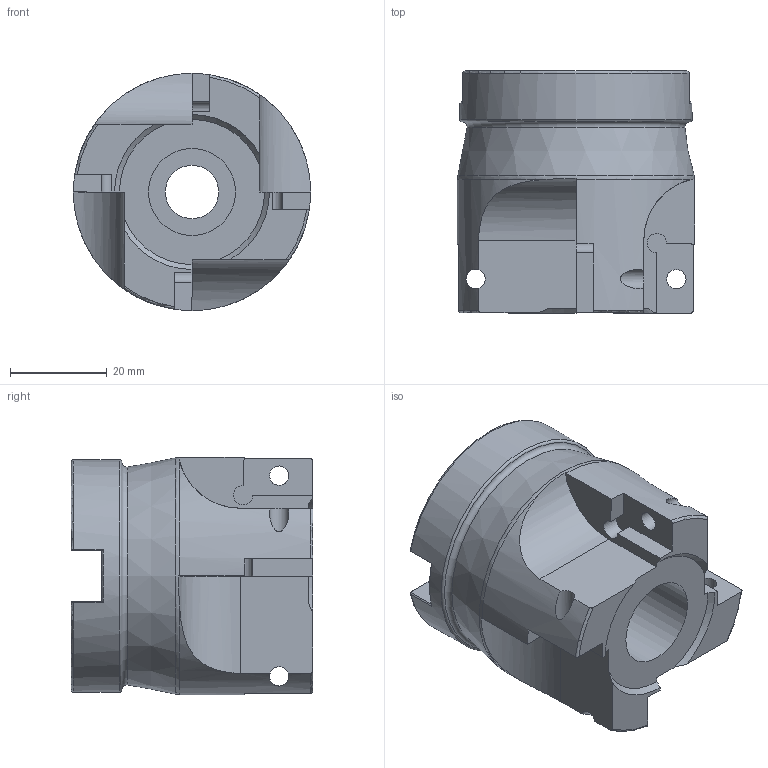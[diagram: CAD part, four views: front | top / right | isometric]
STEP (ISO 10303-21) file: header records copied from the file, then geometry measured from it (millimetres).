
FILE_DESCRIPTION(/* description */ (''),/* implementation_level */ '2;1');
FILE_NAME(/* name */ 'X:\Проектный отдел\Слава\STEP\BAP400R-50-22-4T.stp',/* time_stamp */ '2022-07-28T09:56:29+03:00',/* author */ ('Евгений'),/* organization */ (''),/* preprocessor_version */ 'ST-DEVELOPER v18',/* originating_system */ 'Autodesk Inventor 2020',/* authorisation */ '');
FILE_SCHEMA (('AUTOMOTIVE_DESIGN { 1 0 10303 214 3 1 1 }'));
Length unit declared in the file: millimetre
Products named in the file (1): BAP400R-63-22-4T
Bounding box: 49 x 50 x 49 mm (x, y, z)
Volume: 59866.1 mm3; surface area: 14697.3 mm2
Topology: 1 solids, 1 shells, 101 faces, 309 edges, 207 vertices
Faces by surface type: plane 49, cylinder 20, bspline 12, cone 11, torus 9
Full cylindrical faces by diameter (mm): 4 x4, 11 x1, 18 x1, 22 x1, 48 x1
Entity records: 4060 total; most frequent: CARTESIAN_POINT 1342, ORIENTED_EDGE 618, DIRECTION 509, EDGE_CURVE 309, VERTEX_POINT 207, AXIS2_PLACEMENT_3D 190, LINE 129, VECTOR 129
